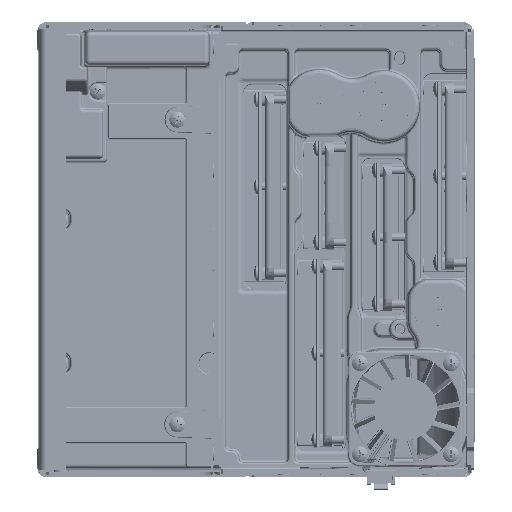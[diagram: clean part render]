
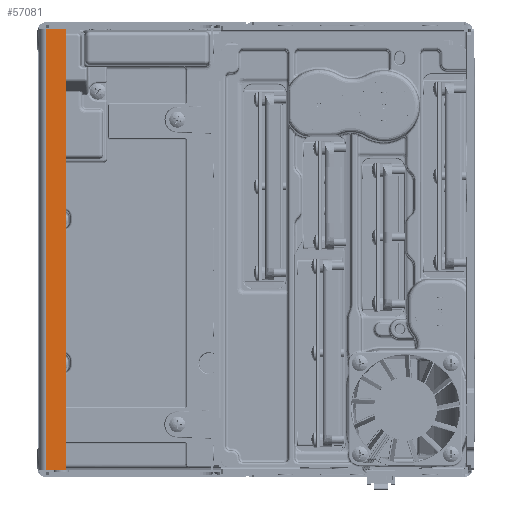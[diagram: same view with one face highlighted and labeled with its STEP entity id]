
A CAD part, left-side view. The second image highlights one B-rep face of the part: STEP entity #57081.
In plain terms, the highlighted planar face has unit normal (-1, 0, 0).
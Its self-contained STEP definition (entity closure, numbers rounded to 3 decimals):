
#28145 = FACE_OUTER_BOUND ( 'NONE', #390583, .T. ) ;
#48203 = ORIENTED_EDGE ( 'NONE', *, *, #290033, .F. ) ;
#57081 = ADVANCED_FACE ( 'NONE', ( #28145 ), #574455, .F. ) ;
#71420 = CARTESIAN_POINT ( 'NONE',  ( 205.615, 103.124, 0.77 ) ) ;
#74533 = VERTEX_POINT ( 'NONE', #476645 ) ;
#114278 = CARTESIAN_POINT ( 'NONE',  ( 205.615, 103.124, -154.17 ) ) ;
#121979 = EDGE_CURVE ( 'NONE', #74533, #499189, #377624, .T. ) ;
#123740 = DIRECTION ( 'NONE',  ( 0., 0., 1. ) ) ;
#142814 = LINE ( 'NONE', #341044, #173835 ) ;
#149192 = DIRECTION ( 'NONE',  ( 0., 1., 0. ) ) ;
#159669 = CARTESIAN_POINT ( 'NONE',  ( 205.615, 110.109, -156.71 ) ) ;
#170755 = CARTESIAN_POINT ( 'NONE',  ( 205.615, 110.109, -154.17 ) ) ;
#173835 = VECTOR ( 'NONE', #149192, 1000. ) ;
#188915 = CARTESIAN_POINT ( 'NONE',  ( 205.615, 110.109, 0.77 ) ) ;
#219565 = VECTOR ( 'NONE', #123740, 1000. ) ;
#220929 = VERTEX_POINT ( 'NONE', #114278 ) ;
#226433 = CARTESIAN_POINT ( 'NONE',  ( 205.615, 103.124, -156.71 ) ) ;
#243224 = LINE ( 'NONE', #441610, #617475 ) ;
#265962 = VERTEX_POINT ( 'NONE', #170755 ) ;
#282428 = DIRECTION ( 'NONE',  ( 0., 0., 1. ) ) ;
#288690 = ORIENTED_EDGE ( 'NONE', *, *, #121979, .F. ) ;
#290033 = EDGE_CURVE ( 'NONE', #265962, #74533, #507674, .T. ) ;
#300065 = EDGE_CURVE ( 'NONE', #220929, #499189, #243224, .T. ) ;
#321854 = ORIENTED_EDGE ( 'NONE', *, *, #300065, .T. ) ;
#341044 = CARTESIAN_POINT ( 'NONE',  ( 205.615, 110.109, -154.17 ) ) ;
#375096 = AXIS2_PLACEMENT_3D ( 'NONE', #226433, #424764, #480039 ) ;
#377624 = LINE ( 'NONE', #188915, #411860 ) ;
#390583 = EDGE_LOOP ( 'NONE', ( #321854, #288690, #48203, #415292 ) ) ;
#411860 = VECTOR ( 'NONE', #624923, 1000. ) ;
#415292 = ORIENTED_EDGE ( 'NONE', *, *, #570655, .F. ) ;
#424764 = DIRECTION ( 'NONE',  ( 1., 0., 0. ) ) ;
#441610 = CARTESIAN_POINT ( 'NONE',  ( 205.615, 103.124, -156.71 ) ) ;
#476645 = CARTESIAN_POINT ( 'NONE',  ( 205.615, 110.109, 0.77 ) ) ;
#480039 = DIRECTION ( 'NONE',  ( 0., 0., -1. ) ) ;
#499189 = VERTEX_POINT ( 'NONE', #71420 ) ;
#507674 = LINE ( 'NONE', #159669, #219565 ) ;
#570655 = EDGE_CURVE ( 'NONE', #220929, #265962, #142814, .T. ) ;
#574455 = PLANE ( 'NONE',  #375096 ) ;
#617475 = VECTOR ( 'NONE', #282428, 1000. ) ;
#624923 = DIRECTION ( 'NONE',  ( 0., -1., 0. ) ) ;
